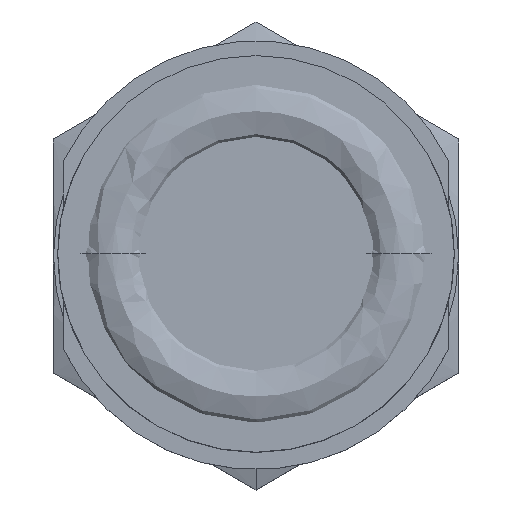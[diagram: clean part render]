
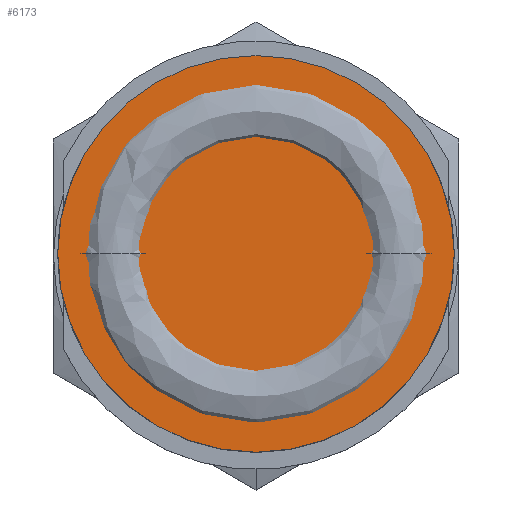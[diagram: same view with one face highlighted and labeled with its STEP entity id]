
A CAD part, top view. The second image highlights one B-rep face of the part: STEP entity #6173.
In plain terms, the highlighted planar face has unit normal (0, 0, 1).
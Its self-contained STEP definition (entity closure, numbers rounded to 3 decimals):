
#225 = CIRCLE ( 'NONE', #2348, 9.25 ) ;
#606 = EDGE_LOOP ( 'NONE', ( #3513, #2849 ) ) ;
#746 = CARTESIAN_POINT ( 'NONE',  ( 0., 0., 0. ) ) ;
#1010 = CARTESIAN_POINT ( 'NONE',  ( 0., 0., 0. ) ) ;
#1240 = PLANE ( 'NONE',  #4098 ) ;
#1518 = CIRCLE ( 'NONE', #1974, 9.25 ) ;
#1974 = AXIS2_PLACEMENT_3D ( 'NONE', #1010, #3197, #3757 ) ;
#2224 = DIRECTION ( 'NONE',  ( 0., 0., 1. ) ) ;
#2348 = AXIS2_PLACEMENT_3D ( 'NONE', #5938, #2224, #4839 ) ;
#2849 = ORIENTED_EDGE ( 'NONE', *, *, #3018, .T. ) ;
#3018 = EDGE_CURVE ( 'NONE', #5978, #4235, #225, .T. ) ;
#3197 = DIRECTION ( 'NONE',  ( 0., 0., 1. ) ) ;
#3513 = ORIENTED_EDGE ( 'NONE', *, *, #4656, .T. ) ;
#3757 = DIRECTION ( 'NONE',  ( 1., 0., 0. ) ) ;
#4098 = AXIS2_PLACEMENT_3D ( 'NONE', #746, #5746, #6659 ) ;
#4235 = VERTEX_POINT ( 'NONE', #5875 ) ;
#4656 = EDGE_CURVE ( 'NONE', #4235, #5978, #1518, .T. ) ;
#4839 = DIRECTION ( 'NONE',  ( 1., 0., 0. ) ) ;
#5321 = CARTESIAN_POINT ( 'NONE',  ( -9.25, 0., 0. ) ) ;
#5746 = DIRECTION ( 'NONE',  ( 0., 0., 1. ) ) ;
#5875 = CARTESIAN_POINT ( 'NONE',  ( 9.25, 0., 0. ) ) ;
#5938 = CARTESIAN_POINT ( 'NONE',  ( 0., 0., 0. ) ) ;
#5978 = VERTEX_POINT ( 'NONE', #5321 ) ;
#6041 = FACE_OUTER_BOUND ( 'NONE', #606, .T. ) ;
#6173 = ADVANCED_FACE ( 'NONE', ( #6041 ), #1240, .T. ) ;
#6659 = DIRECTION ( 'NONE',  ( 1., 0., 0. ) ) ;
